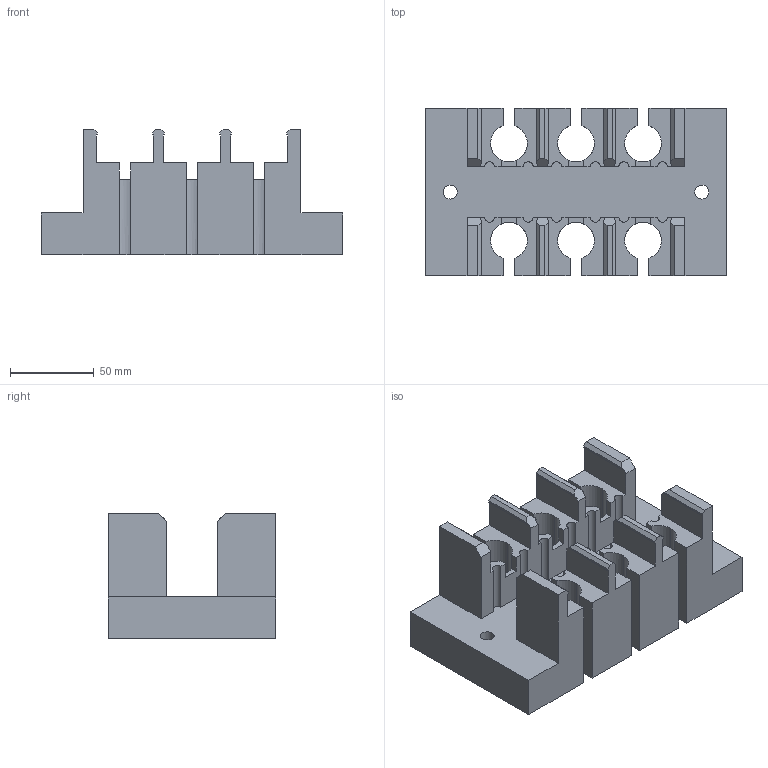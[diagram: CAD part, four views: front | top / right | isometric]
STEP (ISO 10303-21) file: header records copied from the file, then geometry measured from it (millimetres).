
FILE_DESCRIPTION(('CATIA V5 STEP Exchange'),'2;1');
FILE_NAME('G:\够快云库\系统集成开发部\1.部门成员\孙国\工装\速降阀寿命耐久\STP\GZ-SJNJ.01_V1 下底座.stp','2021-05-28T06:50:27+00:00',('none'),('none'),'CATIA Version 5 Release 20 GA (IN-10)','CATIA V5 STEP AP214','none');
FILE_SCHEMA(('AUTOMOTIVE_DESIGN { 1 0 10303 214 1 1 1 1 }'));
Length unit declared in the file: millimetre
Products named in the file (1): 下底座
Bounding box: 180 x 100 x 75 mm (x, y, z)
Volume: 602766.9 mm3; surface area: 104130.3 mm2
Topology: 1 solids, 1 shells, 170 faces, 516 edges, 348 vertices
Faces by surface type: plane 136, cylinder 34
Entity records: 5277 total; most frequent: ORIENTED_EDGE 1032, CARTESIAN_POINT 966, DIRECTION 676, EDGE_CURVE 516, VECTOR 422, LINE 422, VERTEX_POINT 348, EDGE_LOOP 174
